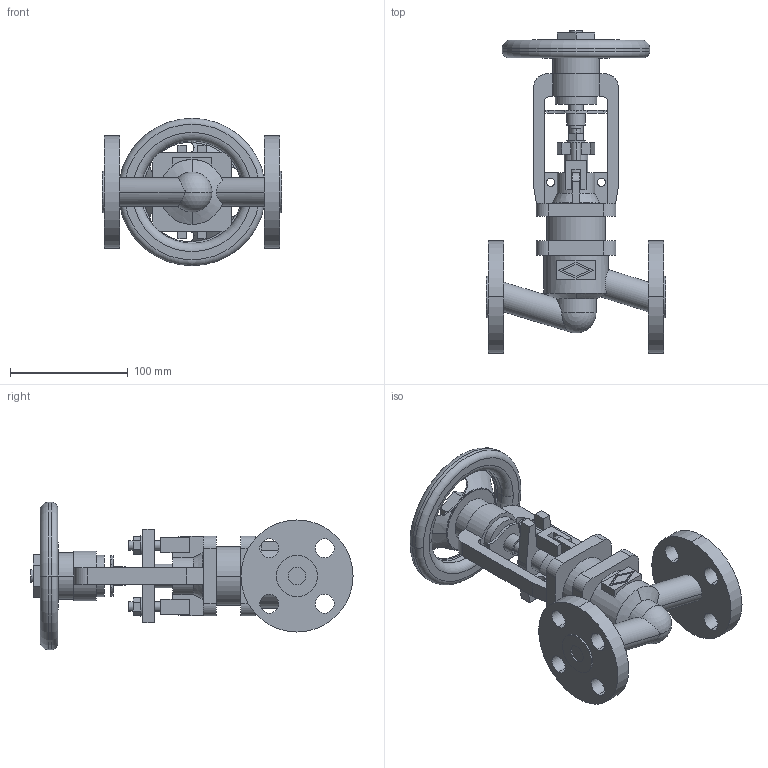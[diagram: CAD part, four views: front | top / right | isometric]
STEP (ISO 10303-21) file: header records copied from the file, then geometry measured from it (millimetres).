
FILE_DESCRIPTION(('OneSpaceDesigner STEP Export'),'2;1');
FILE_NAME('c000004193.stp','2010-04-30T 8:36:45',(''),(''),'OneSpace Designer STEP processor for AP214 (Solid Model)','OneSpace Modeling 15.50B 03-Nov-2007 (C) CoCreate Software GmbH','');
FILE_SCHEMA(('AUTOMOTIVE_DESIGN { 1 0 10303 214 1 1 1 1 }'));
Length unit declared in the file: millimetre
Products named in the file (1): 1
Bounding box: 152 x 273 x 125 mm (x, y, z)
Volume: 717902.5 mm3; surface area: 143273.9 mm2
Topology: 1 solids, 1 shells, 281 faces, 751 edges, 494 vertices
Faces by surface type: plane 140, cylinder 113, torus 14, cone 12, sphere 2
Entity records: 11025 total; most frequent: CARTESIAN_POINT 2088, ORIENTED_EDGE 1498, DIRECTION 1244, EDGE_CURVE 749, VERTEX_POINT 494, VECTOR 418, LINE 418, AXIS2_PLACEMENT_3D 413
